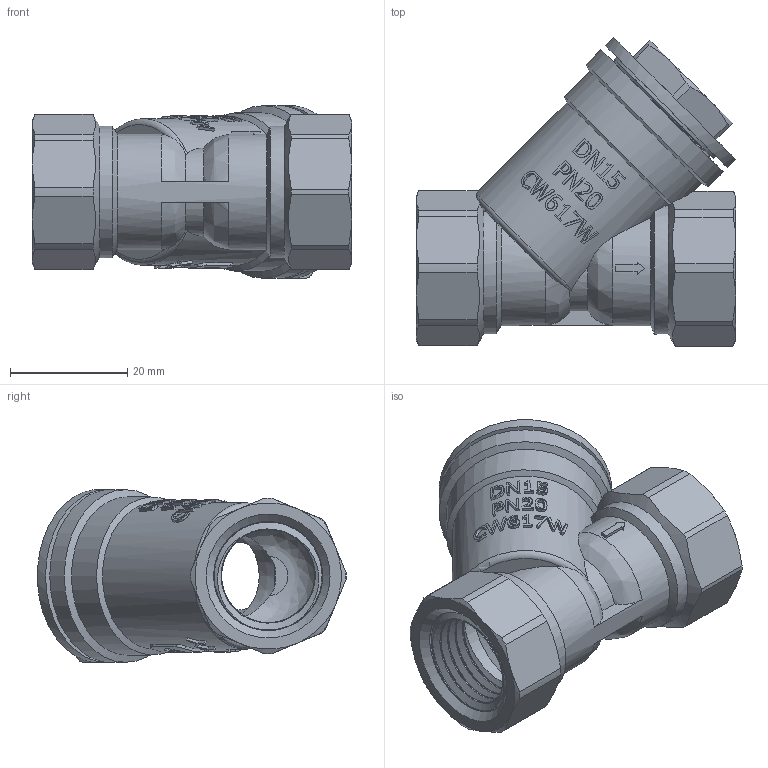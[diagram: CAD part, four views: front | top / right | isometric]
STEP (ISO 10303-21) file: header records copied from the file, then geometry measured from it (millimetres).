
FILE_DESCRIPTION(/* description */ (''),/* implementation_level */ '2;1');
FILE_NAME(/* name */ 'C:\Users\Doom\Desktop\Фадотех\2\F11 22.09.2021\F11 22.09.2021.stp',/* time_stamp */ '2021-12-15T23:06:16+02:00',/* author */ ('Doom'),/* organization */ (''),/* preprocessor_version */ 'ST-DEVELOPER v18',/* originating_system */ 'Autodesk Inventor 2020',/* authorisation */ '');
FILE_SCHEMA (('AUTOMOTIVE_DESIGN { 1 0 10303 214 3 1 1 }'));
Length unit declared in the file: millimetre
Products named in the file (3): F11 22.09.2021; 20-01532-G15-0620-4210; 10-01409-R20-1620
Assembly tree (2 placements, depth 2):
  F11 22.09.2021
    20-01532-G15-0620-4210
    10-01409-R20-1620
Bounding box: 54.5 x 52.75 x 29.5 mm (x, y, z)
Volume: 19157.6 mm3; surface area: 20890.8 mm2
Topology: 6 solids, 6 shells, 499 faces, 1369 edges, 911 vertices
Faces by surface type: bspline 299, cylinder 100, plane 57, cone 40, torus 3
Full cylindrical faces by diameter (mm): 2 x1, 15.91 x8, 16.5 x1, 17 x2, 18 x1, 18.5 x1, 18.6 x4, 19.776 x6, 21.776 x2, 22 x2, 24 x7, 25 x1, 27 x1, 29.5 x2
Entity records: 32811 total; most frequent: CARTESIAN_POINT 22342, ORIENTED_EDGE 2730, EDGE_CURVE 1365, DIRECTION 1178, VERTEX_POINT 909, B_SPLINE_CURVE_WITH_KNOTS 713, EDGE_LOOP 544, FACE_OUTER_BOUND 499
